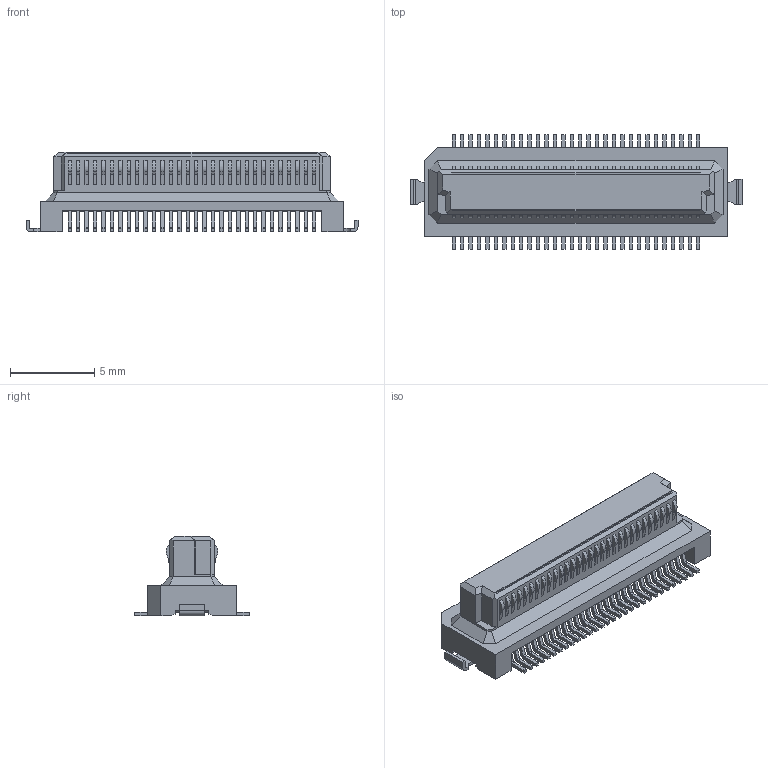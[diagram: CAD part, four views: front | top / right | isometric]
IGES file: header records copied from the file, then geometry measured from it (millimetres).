
Start section: Elysium IGES Interface
Global section: file name: 115HG:\その他\DY関連\CAD\依頼書（ウェブ）_HP用データ\60-36-0120_DY1X-S-2_S-3_S-4_S-5\DY10-060S-2\P39559_DY10-060S-2.igs; native system: Creo Elements/Direct Modeling 20.4A  18-Oct-2021; preprocessor: Creo Element/Direct IGES_3D V2.2; author: Unknown; organization: Unknown; date: 20220224.191757; units: millimetre
Bounding box: 19.7 x 6.8 x 4.73 mm (x, y, z)
Volume: 203.3 mm3; surface area: 487.5 mm2
Topology: 1 solids, 1 shells, 964 faces, 2491 edges, 1650 vertices
Faces by surface type: bspline 964
